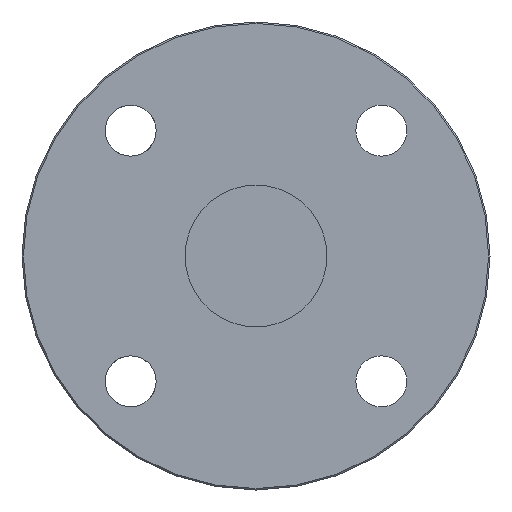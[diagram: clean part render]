
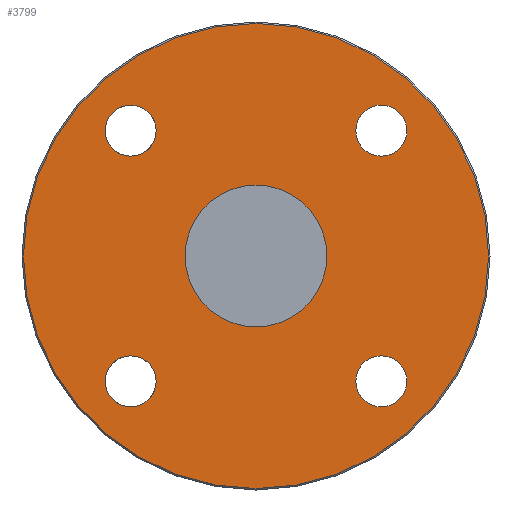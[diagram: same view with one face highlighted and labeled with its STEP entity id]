
A CAD part, left-side view. The second image highlights one B-rep face of the part: STEP entity #3799.
In plain terms, the highlighted planar face has unit normal (-1, 0, 0).
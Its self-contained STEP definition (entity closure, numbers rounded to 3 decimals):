
#156=FACE_BOUND('',#764,.T.);
#157=FACE_BOUND('',#765,.T.);
#158=FACE_BOUND('',#766,.T.);
#159=FACE_BOUND('',#767,.T.);
#160=FACE_BOUND('',#768,.T.);
#268=PLANE('',#4059);
#529=FACE_OUTER_BOUND('',#763,.T.);
#763=EDGE_LOOP('',(#3462));
#764=EDGE_LOOP('',(#3463));
#765=EDGE_LOOP('',(#3464,#3465));
#766=EDGE_LOOP('',(#3466,#3467));
#767=EDGE_LOOP('',(#3468,#3469));
#768=EDGE_LOOP('',(#3470,#3471));
#1545=CIRCLE('',#4058,82.);
#1546=CIRCLE('',#4060,25.);
#1547=CIRCLE('',#4061,9.);
#1548=CIRCLE('',#4062,9.);
#1549=CIRCLE('',#4063,9.);
#1550=CIRCLE('',#4064,9.);
#1551=CIRCLE('',#4065,9.);
#1552=CIRCLE('',#4066,9.);
#1553=CIRCLE('',#4067,9.);
#1554=CIRCLE('',#4068,9.);
#1905=VERTEX_POINT('',#6904);
#1906=VERTEX_POINT('',#6908);
#1907=VERTEX_POINT('',#6910);
#1908=VERTEX_POINT('',#6911);
#1909=VERTEX_POINT('',#6914);
#1910=VERTEX_POINT('',#6915);
#1911=VERTEX_POINT('',#6918);
#1912=VERTEX_POINT('',#6919);
#1913=VERTEX_POINT('',#6922);
#1914=VERTEX_POINT('',#6923);
#2433=EDGE_CURVE('',#1905,#1905,#1545,.T.);
#2434=EDGE_CURVE('',#1906,#1906,#1546,.T.);
#2435=EDGE_CURVE('',#1907,#1908,#1547,.T.);
#2436=EDGE_CURVE('',#1908,#1907,#1548,.T.);
#2437=EDGE_CURVE('',#1909,#1910,#1549,.T.);
#2438=EDGE_CURVE('',#1910,#1909,#1550,.T.);
#2439=EDGE_CURVE('',#1911,#1912,#1551,.T.);
#2440=EDGE_CURVE('',#1912,#1911,#1552,.T.);
#2441=EDGE_CURVE('',#1913,#1914,#1553,.T.);
#2442=EDGE_CURVE('',#1914,#1913,#1554,.T.);
#3462=ORIENTED_EDGE('',*,*,#2433,.F.);
#3463=ORIENTED_EDGE('',*,*,#2434,.T.);
#3464=ORIENTED_EDGE('',*,*,#2435,.T.);
#3465=ORIENTED_EDGE('',*,*,#2436,.T.);
#3466=ORIENTED_EDGE('',*,*,#2437,.T.);
#3467=ORIENTED_EDGE('',*,*,#2438,.T.);
#3468=ORIENTED_EDGE('',*,*,#2439,.T.);
#3469=ORIENTED_EDGE('',*,*,#2440,.T.);
#3470=ORIENTED_EDGE('',*,*,#2441,.T.);
#3471=ORIENTED_EDGE('',*,*,#2442,.T.);
#3799=ADVANCED_FACE('',(#529,#156,#157,#158,#159,#160),#268,.T.);
#4058=AXIS2_PLACEMENT_3D('',#6906,#4869,#4870);
#4059=AXIS2_PLACEMENT_3D('',#6907,#4871,#4872);
#4060=AXIS2_PLACEMENT_3D('',#6909,#4873,#4874);
#4061=AXIS2_PLACEMENT_3D('',#6912,#4875,#4876);
#4062=AXIS2_PLACEMENT_3D('',#6913,#4877,#4878);
#4063=AXIS2_PLACEMENT_3D('',#6916,#4879,#4880);
#4064=AXIS2_PLACEMENT_3D('',#6917,#4881,#4882);
#4065=AXIS2_PLACEMENT_3D('',#6920,#4883,#4884);
#4066=AXIS2_PLACEMENT_3D('',#6921,#4885,#4886);
#4067=AXIS2_PLACEMENT_3D('',#6924,#4887,#4888);
#4068=AXIS2_PLACEMENT_3D('',#6925,#4889,#4890);
#4869=DIRECTION('center_axis',(1.,0.,0.));
#4870=DIRECTION('ref_axis',(0.,-1.,0.));
#4871=DIRECTION('center_axis',(-1.,0.,0.));
#4872=DIRECTION('ref_axis',(0.,0.,1.));
#4873=DIRECTION('center_axis',(1.,0.,0.));
#4874=DIRECTION('ref_axis',(0.,0.,-1.));
#4875=DIRECTION('center_axis',(1.,0.,0.));
#4876=DIRECTION('ref_axis',(0.,0.,1.));
#4877=DIRECTION('center_axis',(1.,0.,0.));
#4878=DIRECTION('ref_axis',(0.,0.,1.));
#4879=DIRECTION('center_axis',(1.,0.,0.));
#4880=DIRECTION('ref_axis',(0.,0.,1.));
#4881=DIRECTION('center_axis',(1.,0.,0.));
#4882=DIRECTION('ref_axis',(0.,0.,1.));
#4883=DIRECTION('center_axis',(1.,0.,0.));
#4884=DIRECTION('ref_axis',(0.,0.,1.));
#4885=DIRECTION('center_axis',(1.,0.,0.));
#4886=DIRECTION('ref_axis',(0.,0.,1.));
#4887=DIRECTION('center_axis',(1.,0.,0.));
#4888=DIRECTION('ref_axis',(0.,0.,1.));
#4889=DIRECTION('center_axis',(1.,0.,0.));
#4890=DIRECTION('ref_axis',(0.,0.,1.));
#6904=CARTESIAN_POINT('',(-42.5,82.,0.));
#6906=CARTESIAN_POINT('Origin',(-42.5,0.,0.));
#6907=CARTESIAN_POINT('Origin',(-42.5,41.25,0.));
#6908=CARTESIAN_POINT('',(-42.5,0.,25.));
#6909=CARTESIAN_POINT('Origin',(-42.5,0.,0.));
#6910=CARTESIAN_POINT('',(-42.5,44.194,-35.194));
#6911=CARTESIAN_POINT('',(-42.5,44.194,-53.194));
#6912=CARTESIAN_POINT('Origin',(-42.5,44.194,-44.194));
#6913=CARTESIAN_POINT('Origin',(-42.5,44.194,-44.194));
#6914=CARTESIAN_POINT('',(-42.5,-44.194,-35.194));
#6915=CARTESIAN_POINT('',(-42.5,-44.194,-53.194));
#6916=CARTESIAN_POINT('Origin',(-42.5,-44.194,-44.194));
#6917=CARTESIAN_POINT('Origin',(-42.5,-44.194,-44.194));
#6918=CARTESIAN_POINT('',(-42.5,-44.194,53.194));
#6919=CARTESIAN_POINT('',(-42.5,-44.194,35.194));
#6920=CARTESIAN_POINT('Origin',(-42.5,-44.194,44.194));
#6921=CARTESIAN_POINT('Origin',(-42.5,-44.194,44.194));
#6922=CARTESIAN_POINT('',(-42.5,44.194,53.194));
#6923=CARTESIAN_POINT('',(-42.5,44.194,35.194));
#6924=CARTESIAN_POINT('Origin',(-42.5,44.194,44.194));
#6925=CARTESIAN_POINT('Origin',(-42.5,44.194,44.194));
